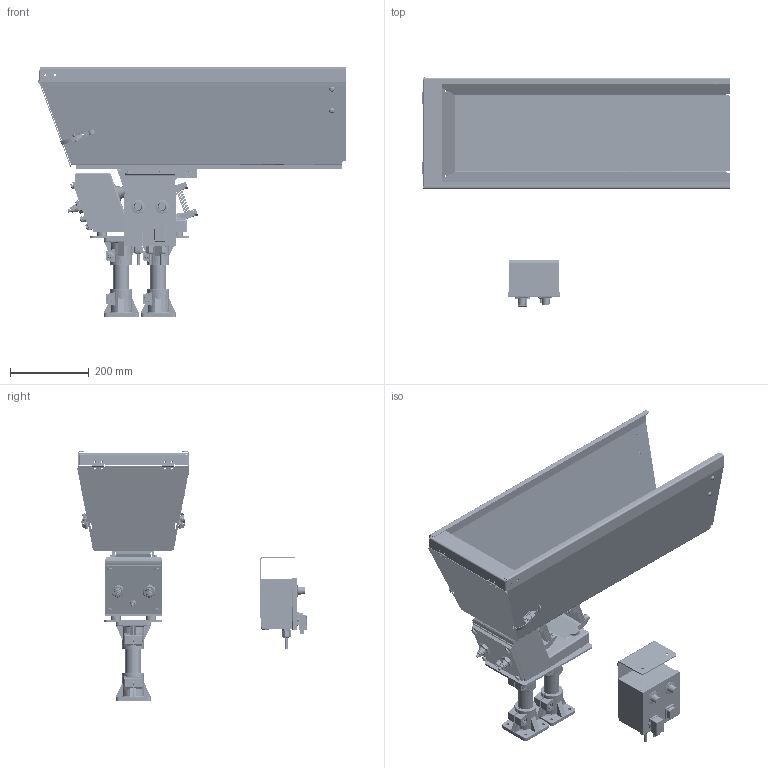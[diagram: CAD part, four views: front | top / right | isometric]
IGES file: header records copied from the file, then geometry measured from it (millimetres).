
Start section: SolidWorks IGES file using analytic representation for surfaces
Global section: file name: C:\Users\ufficiotecnico\OneDrive - Ars Srl\Desktop\Bulk Feeder 20 lt\GM000298.IGS; native system: SolidWorks 2020; preprocessor: SolidWorks 2020; author: ufficiotecnico; date: 211116.154013; units: millimetre
Bounding box: 784.5 x 582.87 x 633.73 mm (x, y, z)
Surface area: 2464226 mm2 (no closed solid volume)
Topology: 0 solids, 0 shells, 9017 faces, 92804 edges, 92486 vertices
Faces by surface type: revolution 7149, bspline 1868
